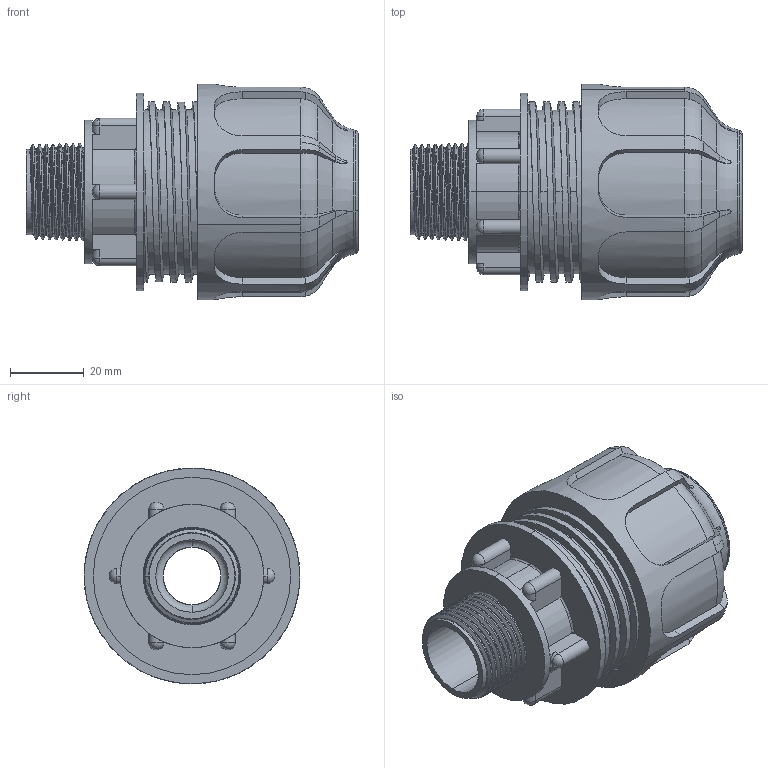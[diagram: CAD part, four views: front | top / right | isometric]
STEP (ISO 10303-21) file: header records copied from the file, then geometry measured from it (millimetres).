
FILE_DESCRIPTION (( 'STEP AP203' ), '1' );
FILE_NAME ('02004.0520 (1).STEP', '2017-05-22T13:52:44', ( '' ), ( '' ), 'SwSTEP 2.0', 'SolidWorks 2011', '' );
FILE_SCHEMA (( 'CONFIG_CONTROL_DESIGN' ));
Products named in the file (3): 02004.0520 (1); 01711_2020; 01770_0520
Assembly tree (2 placements, depth 2):
  02004.0520 (1)
    01770_0520
    01711_2020
Bounding box: 90.19 x 58.6 x 58.6 mm (x, y, z)
Volume: 63643 mm3; surface area: 51744.5 mm2
Topology: 2 solids, 2 shells, 429 faces, 1434 edges, 1008 vertices
Faces by surface type: cylinder 135, plane 131, torus 101, cone 45, bspline 11, sphere 6
Entity records: 28164 total; most frequent: CARTESIAN_POINT 16457, ORIENTED_EDGE 2848, DIRECTION 1907, EDGE_CURVE 1424, VERTEX_POINT 1006, AXIS2_PLACEMENT_3D 765, B_SPLINE_CURVE_WITH_KNOTS 635, EDGE_LOOP 440
